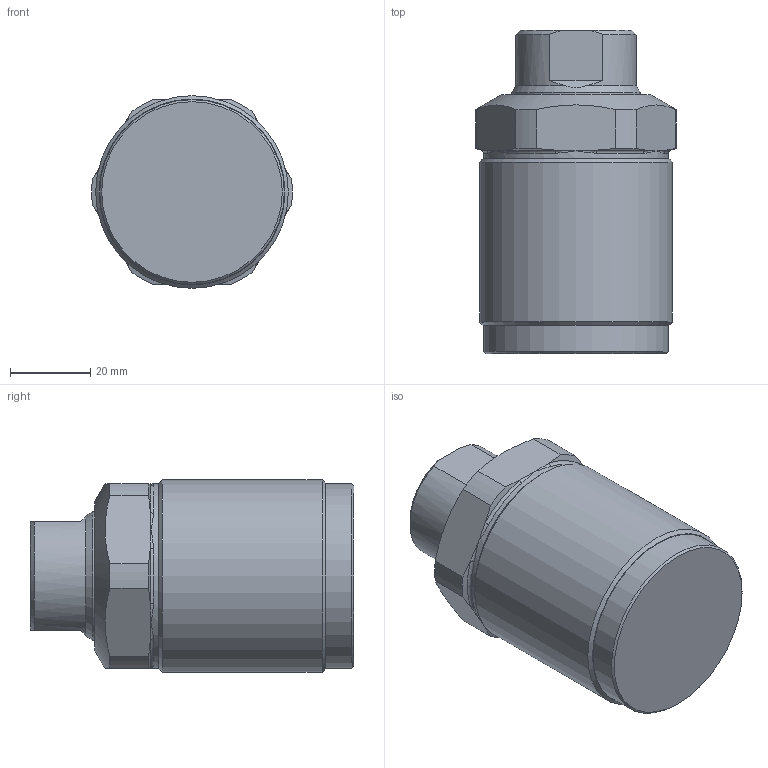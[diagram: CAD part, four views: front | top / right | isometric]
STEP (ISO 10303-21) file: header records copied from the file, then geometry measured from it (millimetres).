
FILE_DESCRIPTION(/* description */ (''),/* implementation_level */ '2;1');
FILE_NAME(/* name */ 'TGM20-15.stp',/* time_stamp */ '2024-08-27T08:25:36+08:00',/* author */ (''),/* organization */ (''),/* preprocessor_version */ 'ST-DEVELOPER v16.7',/* originating_system */ 'SIEMENS PLM Software NX 12.0',/* authorisation */ '');
FILE_SCHEMA (('AUTOMOTIVE_DESIGN { 1 0 10303 214 3 1 1 1 }'));
Length unit declared in the file: millimetre
Products named in the file (3): TGM20-15BODY_id11_x_t; TGM20-15 ROD_id6_x_t; TGM20-15_x_t
Assembly tree (2 placements, depth 2):
  TGM20-15_x_t
    TGM20-15 ROD_id6_x_t
    TGM20-15BODY_id11_x_t
Bounding box: 49.96 x 80.5 x 48 mm (x, y, z)
Volume: 122462.2 mm3; surface area: 19831.6 mm2
Topology: 2 solids, 2 shells, 66 faces, 163 edges, 93 vertices
Faces by surface type: plane 18, cylinder 15, cone 15, bspline 12, torus 6
Full cylindrical faces by diameter (mm): 10.3 x1, 12 x1, 32 x2, 46 x2, 48 x1
Entity records: 1956 total; most frequent: CARTESIAN_POINT 572, DIRECTION 266, ORIENTED_EDGE 264, EDGE_CURVE 132, AXIS2_PLACEMENT_3D 123, VERTEX_POINT 89, EDGE_LOOP 84, ADVANCED_FACE 66
